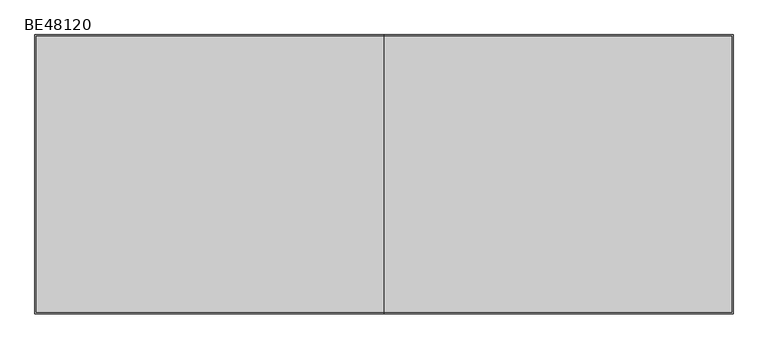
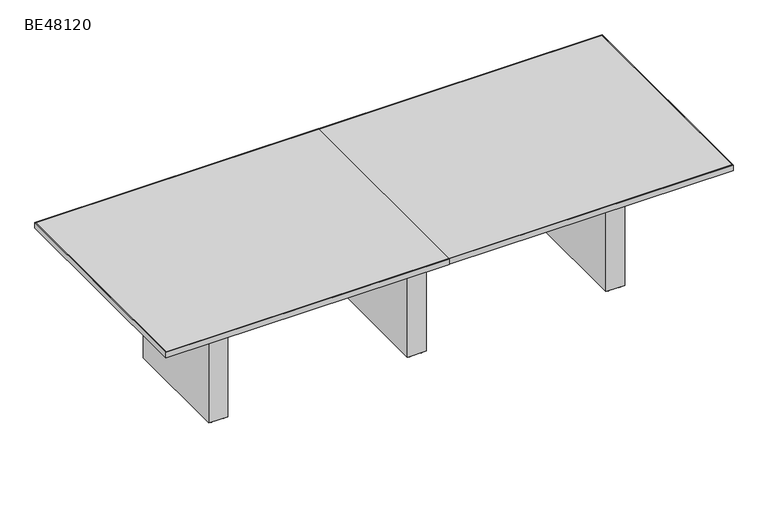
"""IFC4 building model written with IfcOpenShell, lengths in millimetres: furniture geometry, ERG-Beta-Conference_Table-Rectangle : BE48120."""

from ifc_helpers import new_model, si_unit, point, frame, frame_2d, origin, origin_with_axes, place, context, project, spatial, polyline, circle_curve, trimmed, segment, composite_curve, outline, extrude, source, transform, mapped, element, save


def be48120_0febc19b(model_context):
    return source(origin(), model_context, "Body", "SweptSolid", [
        extrude(outline(composite_curve([segment(trimmed(circle_curve(frame_2d((511.175, 339.476527)), 9.525), [point((501.65, 339.476527))], [point((520.7, 339.476527))], False, "CARTESIAN"), True, "CONTINUOUS"), segment(trimmed(circle_curve(frame_2d((511.175, 339.476527)), 9.525), [point((520.7, 339.476527))], [point((501.65, 339.476527))], False, "CARTESIAN"), True, "CONTINUOUS")], self_intersect=False)), origin_with_axes(), (0.0, 0.0, 1.0), 9.525),
        extrude(outline(composite_curve([segment(trimmed(circle_curve(frame_2d((574.675, 339.476527)), 9.525), [point((565.15, 339.476527))], [point((584.2, 339.476527))], False, "CARTESIAN"), True, "CONTINUOUS"), segment(trimmed(circle_curve(frame_2d((574.675, 339.476527)), 9.525), [point((584.2, 339.476527))], [point((565.15, 339.476527))], False, "CARTESIAN"), True, "CONTINUOUS")], self_intersect=False)), origin_with_axes(), (0.0, 0.0, 1.0), 9.525),
        extrude(outline(composite_curve([segment(trimmed(circle_curve(frame_2d((511.175, -232.023473)), 9.525), [point((501.65, -232.023473))], [point((520.7, -232.023473))], False, "CARTESIAN"), True, "CONTINUOUS"), segment(trimmed(circle_curve(frame_2d((511.175, -232.023473)), 9.525), [point((520.7, -232.023473))], [point((501.65, -232.023473))], False, "CARTESIAN"), True, "CONTINUOUS")], self_intersect=False)), origin_with_axes(), (0.0, 0.0, 1.0), 9.525),
        extrude(outline(composite_curve([segment(trimmed(circle_curve(frame_2d((574.675, -232.023473)), 9.525), [point((565.15, -232.023473))], [point((584.2, -232.023473))], False, "CARTESIAN"), True, "CONTINUOUS"), segment(trimmed(circle_curve(frame_2d((574.675, -232.023473)), 9.525), [point((584.2, -232.023473))], [point((565.15, -232.023473))], False, "CARTESIAN"), True, "CONTINUOUS")], self_intersect=False)), origin_with_axes(), (0.0, 0.0, 1.0), 9.525),
        extrude(outline(polyline([(593.725, 358.526527), (593.725, -251.073473), (492.125, -251.073473), (492.125, 358.526527), (593.725, 358.526527)])), frame((0.0, 0.0, 9.525), z_axis=(0.0, 0.0, 1.0), x_axis=(1.0, 0.0, 0.0)), (0.0, 0.0, 1.0), 695.3249758),
        extrude(outline(composite_curve([segment(trimmed(circle_curve(frame_2d((1577.975, 339.476527)), 9.525), [point((1568.45, 339.476527))], [point((1587.5, 339.476527))], False, "CARTESIAN"), True, "CONTINUOUS"), segment(trimmed(circle_curve(frame_2d((1577.975, 339.476527)), 9.525), [point((1587.5, 339.476527))], [point((1568.45, 339.476527))], False, "CARTESIAN"), True, "CONTINUOUS")], self_intersect=False)), origin_with_axes(), (0.0, 0.0, 1.0), 9.525),
        extrude(outline(composite_curve([segment(trimmed(circle_curve(frame_2d((1641.475, 339.476527)), 9.525), [point((1631.95, 339.476527))], [point((1651.0, 339.476527))], False, "CARTESIAN"), True, "CONTINUOUS"), segment(trimmed(circle_curve(frame_2d((1641.475, 339.476527)), 9.525), [point((1651.0, 339.476527))], [point((1631.95, 339.476527))], False, "CARTESIAN"), True, "CONTINUOUS")], self_intersect=False)), origin_with_axes(), (0.0, 0.0, 1.0), 9.525),
        extrude(outline(composite_curve([segment(trimmed(circle_curve(frame_2d((1577.975, -232.023473)), 9.525), [point((1568.45, -232.023473))], [point((1587.5, -232.023473))], False, "CARTESIAN"), True, "CONTINUOUS"), segment(trimmed(circle_curve(frame_2d((1577.975, -232.023473)), 9.525), [point((1587.5, -232.023473))], [point((1568.45, -232.023473))], False, "CARTESIAN"), True, "CONTINUOUS")], self_intersect=False)), origin_with_axes(), (0.0, 0.0, 1.0), 9.525),
        extrude(outline(composite_curve([segment(trimmed(circle_curve(frame_2d((1641.475, -232.023473)), 9.525), [point((1631.95, -232.023473))], [point((1651.0, -232.023473))], False, "CARTESIAN"), True, "CONTINUOUS"), segment(trimmed(circle_curve(frame_2d((1641.475, -232.023473)), 9.525), [point((1651.0, -232.023473))], [point((1631.95, -232.023473))], False, "CARTESIAN"), True, "CONTINUOUS")], self_intersect=False)), origin_with_axes(), (0.0, 0.0, 1.0), 9.525),
        extrude(outline(polyline([(1660.525, 358.526527), (1660.525, -251.073473), (1558.925, -251.073473), (1558.925, 358.526527), (1660.525, 358.526527)])), frame((0.0, 0.0, 9.525), z_axis=(0.0, 0.0, 1.0), x_axis=(1.0, 0.0, 0.0)), (0.0, 0.0, 1.0), 695.3249758),
        extrude(outline(composite_curve([segment(trimmed(circle_curve(frame_2d((-555.625, 339.476527)), 9.525), [point((-565.15, 339.476527))], [point((-546.1, 339.476527))], False, "CARTESIAN"), True, "CONTINUOUS"), segment(trimmed(circle_curve(frame_2d((-555.625, 339.476527)), 9.525), [point((-546.1, 339.476527))], [point((-565.15, 339.476527))], False, "CARTESIAN"), True, "CONTINUOUS")], self_intersect=False)), origin_with_axes(), (0.0, 0.0, 1.0), 9.525),
        extrude(outline(composite_curve([segment(trimmed(circle_curve(frame_2d((-492.125, 339.476527)), 9.525), [point((-501.65, 339.476527))], [point((-482.6, 339.476527))], False, "CARTESIAN"), True, "CONTINUOUS"), segment(trimmed(circle_curve(frame_2d((-492.125, 339.476527)), 9.525), [point((-482.6, 339.476527))], [point((-501.65, 339.476527))], False, "CARTESIAN"), True, "CONTINUOUS")], self_intersect=False)), origin_with_axes(), (0.0, 0.0, 1.0), 9.525),
        extrude(outline(composite_curve([segment(trimmed(circle_curve(frame_2d((-555.625, -232.023473)), 9.525), [point((-565.15, -232.023473))], [point((-546.1, -232.023473))], False, "CARTESIAN"), True, "CONTINUOUS"), segment(trimmed(circle_curve(frame_2d((-555.625, -232.023473)), 9.525), [point((-546.1, -232.023473))], [point((-565.15, -232.023473))], False, "CARTESIAN"), True, "CONTINUOUS")], self_intersect=False)), origin_with_axes(), (0.0, 0.0, 1.0), 9.525),
        extrude(outline(composite_curve([segment(trimmed(circle_curve(frame_2d((-492.125, -232.023473)), 9.525), [point((-501.65, -232.023473))], [point((-482.6, -232.023473))], False, "CARTESIAN"), True, "CONTINUOUS"), segment(trimmed(circle_curve(frame_2d((-492.125, -232.023473)), 9.525), [point((-482.6, -232.023473))], [point((-501.65, -232.023473))], False, "CARTESIAN"), True, "CONTINUOUS")], self_intersect=False)), origin_with_axes(), (0.0, 0.0, 1.0), 9.525),
        extrude(outline(polyline([(-473.075, 358.526527), (-473.075, -251.073473), (-574.675, -251.073473), (-574.675, 358.526527), (-473.075, 358.526527)])), frame((0.0, 0.0, 9.525), z_axis=(0.0, 0.0, 1.0), x_axis=(1.0, 0.0, 0.0)), (0.0, 0.0, 1.0), 695.3249758),
        extrude(outline(polyline([(2066.925, 663.326527), (2066.925, -555.873473), (544.5125, -555.873473), (544.5125, -552.698473), (2063.75, -552.698473), (2063.75, 660.151527), (544.5125, 660.151527), (544.5125, 663.326527), (2066.925, 663.326527)])), frame((0.0, 0.0, 704.85), z_axis=(0.0, 0.0, 1.0), x_axis=(1.0, 0.0, 0.0)), (0.0, 0.0, 1.0), 31.75),
        extrude(outline(polyline([(-981.075, -555.873473), (-981.075, 663.326527), (541.3375, 663.326527), (541.3375, 660.151527), (-977.9, 660.151527), (-977.9, -552.698473), (541.3375, -552.698473), (541.3375, -555.873473), (-981.075, -555.873473)])), frame((0.0, 0.0, 704.85), z_axis=(0.0, 0.0, 1.0), x_axis=(1.0, 0.0, 0.0)), (0.0, 0.0, 1.0), 31.75),
        extrude(outline(polyline([(2063.75, 660.151527), (2063.75, -552.698473), (544.5125, -552.698473), (544.5125, 660.151527), (2063.75, 660.151527)])), frame((0.0, 0.0, 704.85), z_axis=(0.0, 0.0, 1.0), x_axis=(1.0, 0.0, 0.0)), (0.0, 0.0, 1.0), 31.75),
        extrude(outline(polyline([(-977.9, -552.698473), (-977.9, 660.151527), (541.3375, 660.151527), (541.3375, -552.698473), (-977.9, -552.698473)])), frame((0.0, 0.0, 704.85), z_axis=(0.0, 0.0, 1.0), x_axis=(1.0, 0.0, 0.0)), (0.0, 0.0, 1.0), 31.75),
    ])


if __name__ == "__main__":
    model = new_model("IFC4")
    model_context = context("Model", 3, world=origin())
    ifc_project = project(units=[si_unit("LENGTHUNIT", "METRE", prefix="MILLI")], contexts=[model_context])
    site = spatial("IfcSite", under=ifc_project)
    building = spatial("IfcBuilding", under=site)
    placement = place(None, origin())
    be48120_shape = be48120_0febc19b(model_context)
    element("IfcFurniture", 1, ObjectType="ERG-Beta-Conference_Table-Rectangle : BE48120", at=placement, inside=building, context=model_context, shape_type="MappedRepresentation", body=[
        mapped(be48120_shape, transform((0.0, 0.0, 0.0), x_axis=(1.0, 0.0, 0.0), y_axis=(0.0, 1.0, 0.0), z_axis=(0.0, 0.0, 1.0))),
    ])
    save(model, "model.ifc")
